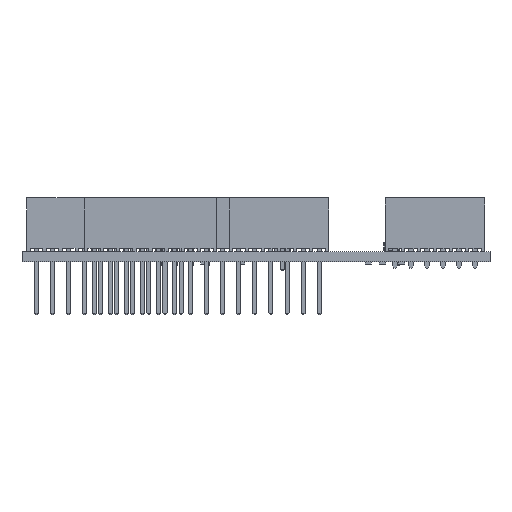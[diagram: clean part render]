
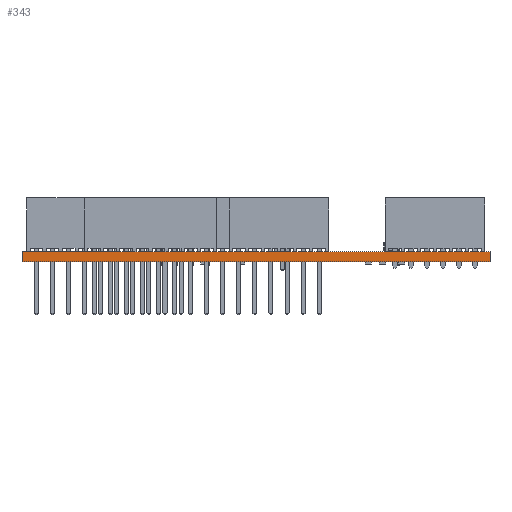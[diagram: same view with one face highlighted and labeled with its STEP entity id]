
A CAD part, front view. The second image highlights one B-rep face of the part: STEP entity #343.
In plain terms, the highlighted planar face has unit normal (0, -1, 0).
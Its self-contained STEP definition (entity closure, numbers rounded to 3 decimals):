
#121 = EDGE_CURVE('',#122,#124,#126,.T.);
#122 = VERTEX_POINT('',#123);
#123 = CARTESIAN_POINT('',(0.,0.,0.));
#124 = VERTEX_POINT('',#125);
#125 = CARTESIAN_POINT('',(0.,0.,1.6));
#126 = LINE('',#127,#128);
#127 = CARTESIAN_POINT('',(0.,0.,0.));
#128 = VECTOR('',#129,1.);
#129 = DIRECTION('',(0.,0.,1.));
#318 = VERTEX_POINT('',#319);
#319 = CARTESIAN_POINT('',(74.,0.,1.6));
#325 = EDGE_CURVE('',#326,#318,#328,.T.);
#326 = VERTEX_POINT('',#327);
#327 = CARTESIAN_POINT('',(74.,0.,0.));
#328 = LINE('',#329,#330);
#329 = CARTESIAN_POINT('',(74.,0.,0.));
#330 = VECTOR('',#331,1.);
#331 = DIRECTION('',(0.,0.,1.));
#343 = ADVANCED_FACE('',(#344),#360,.T.);
#344 = FACE_BOUND('',#345,.T.);
#345 = EDGE_LOOP('',(#346,#347,#353,#354));
#346 = ORIENTED_EDGE('',*,*,#325,.T.);
#347 = ORIENTED_EDGE('',*,*,#348,.T.);
#348 = EDGE_CURVE('',#318,#124,#349,.T.);
#349 = LINE('',#350,#351);
#350 = CARTESIAN_POINT('',(74.,0.,1.6));
#351 = VECTOR('',#352,1.);
#352 = DIRECTION('',(-1.,0.,0.));
#353 = ORIENTED_EDGE('',*,*,#121,.F.);
#354 = ORIENTED_EDGE('',*,*,#355,.F.);
#355 = EDGE_CURVE('',#326,#122,#356,.T.);
#356 = LINE('',#357,#358);
#357 = CARTESIAN_POINT('',(74.,0.,0.));
#358 = VECTOR('',#359,1.);
#359 = DIRECTION('',(-1.,0.,0.));
#360 = PLANE('',#361);
#361 = AXIS2_PLACEMENT_3D('',#362,#363,#364);
#362 = CARTESIAN_POINT('',(74.,0.,0.));
#363 = DIRECTION('',(0.,-1.,0.));
#364 = DIRECTION('',(-1.,0.,0.));
